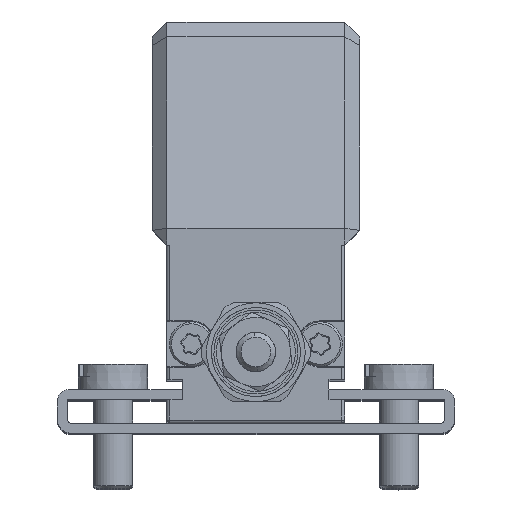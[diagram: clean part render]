
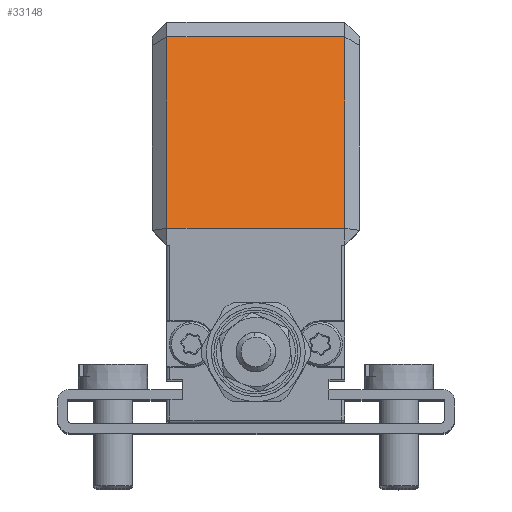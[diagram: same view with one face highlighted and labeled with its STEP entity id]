
A CAD part, top view. The second image highlights one B-rep face of the part: STEP entity #33148.
In plain terms, the highlighted planar face has unit normal (0, 0.259, 0.966).
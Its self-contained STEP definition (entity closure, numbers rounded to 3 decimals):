
#32356 = VERTEX_POINT ( 'NONE', #39571 ) ;
#32361 = EDGE_CURVE ( 'NONE', #32363, #32356, #39570, .T. ) ;
#32363 = VERTEX_POINT ( 'NONE', #39657 ) ;
#33013 = EDGE_CURVE ( 'NONE', #32363, #33152, #41958, .T. ) ;
#33014 = ORIENTED_EDGE ( 'NONE', *, *, #32361, .T. ) ;
#33016 = ORIENTED_EDGE ( 'NONE', *, *, #33017, .T. ) ;
#33017 = EDGE_CURVE ( 'NONE', #32356, #33153, #41940, .T. ) ;
#33052 = EDGE_LOOP ( 'NONE', ( #33150, #33155, #33014, #33016 ) ) ;
#33148 = ADVANCED_FACE ( 'NONE', ( #42325 ), #42301, .T. ) ;
#33150 = ORIENTED_EDGE ( 'NONE', *, *, #33151, .F. ) ;
#33151 = EDGE_CURVE ( 'NONE', #33152, #33153, #42400, .T. ) ;
#33152 = VERTEX_POINT ( 'NONE', #42392 ) ;
#33153 = VERTEX_POINT ( 'NONE', #42390 ) ;
#33155 = ORIENTED_EDGE ( 'NONE', *, *, #33013, .F. ) ;
#39567 = DIRECTION ( 'NONE',  ( 1., 0., 0. ) ) ;
#39568 = VECTOR ( 'NONE', #39567, 1000. ) ;
#39569 = CARTESIAN_POINT ( 'NONE',  ( -13.269, 11.45, 82.451 ) ) ;
#39570 = LINE ( 'NONE', #39569, #39568 ) ;
#39571 = CARTESIAN_POINT ( 'NONE',  ( 6.231, 11.45, 82.451 ) ) ;
#39657 = CARTESIAN_POINT ( 'NONE',  ( -11.769, 11.45, 82.451 ) ) ;
#41935 = DIRECTION ( 'NONE',  ( 0., 0.966, -0.259 ) ) ;
#41936 = VECTOR ( 'NONE', #41935, 1000. ) ;
#41938 = CARTESIAN_POINT ( 'NONE',  ( 6.231, 11.45, 82.451 ) ) ;
#41940 = LINE ( 'NONE', #41938, #41936 ) ;
#41944 = DIRECTION ( 'NONE',  ( 0., 0.966, -0.259 ) ) ;
#41945 = VECTOR ( 'NONE', #41944, 1000. ) ;
#41948 = CARTESIAN_POINT ( 'NONE',  ( -11.769, 11.45, 82.451 ) ) ;
#41958 = LINE ( 'NONE', #41948, #41945 ) ;
#42301 = PLANE ( 'NONE',  #42411 ) ;
#42325 = FACE_OUTER_BOUND ( 'NONE', #33052, .T. ) ;
#42390 = CARTESIAN_POINT ( 'NONE',  ( 6.231, 30.85, 77.253 ) ) ;
#42392 = CARTESIAN_POINT ( 'NONE',  ( -11.769, 30.85, 77.253 ) ) ;
#42394 = DIRECTION ( 'NONE',  ( 1., 0., 0. ) ) ;
#42395 = VECTOR ( 'NONE', #42394, 1000. ) ;
#42398 = CARTESIAN_POINT ( 'NONE',  ( -13.269, 30.85, 77.253 ) ) ;
#42400 = LINE ( 'NONE', #42398, #42395 ) ;
#42406 = DIRECTION ( 'NONE',  ( 0., -0.966, 0.259 ) ) ;
#42408 = DIRECTION ( 'NONE',  ( 0., 0.259, 0.966 ) ) ;
#42410 = CARTESIAN_POINT ( 'NONE',  ( -13.269, 11.45, 82.451 ) ) ;
#42411 = AXIS2_PLACEMENT_3D ( 'NONE', #42410, #42408, #42406 ) ;
